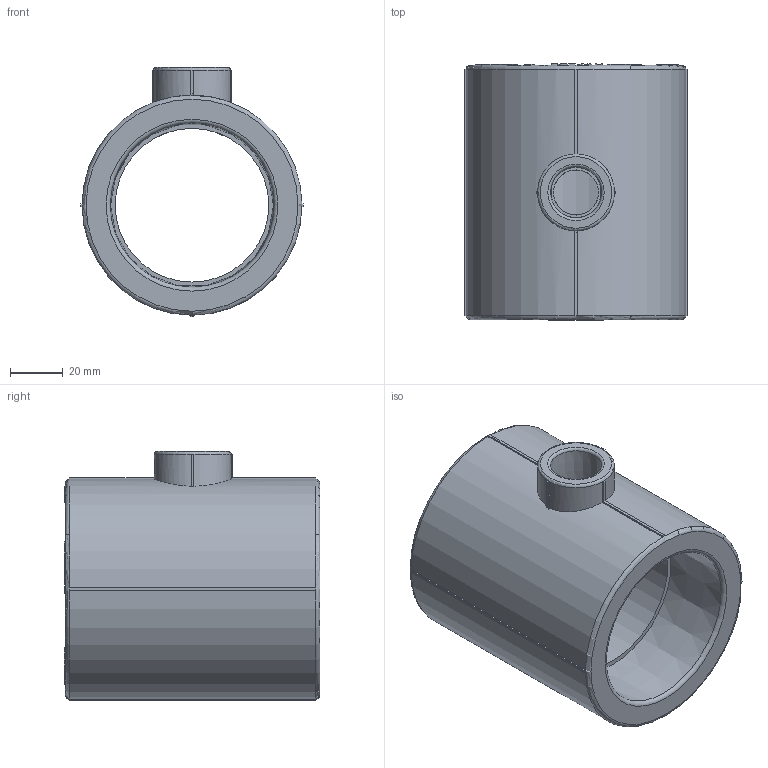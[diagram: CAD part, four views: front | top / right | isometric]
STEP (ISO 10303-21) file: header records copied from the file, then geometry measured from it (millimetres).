
FILE_DESCRIPTION(('STEP AP203'), '1');
FILE_NAME('ÂÐ.752241.067 - VTp.735.0.063020063', '', ('UNSPECIFIED'), ('UNSPECIFIED'), 'C3D Converter', 'C3D Toolkit', '');
FILE_SCHEMA(('CONFIG_CONTROL_DESIGN'));
Length unit declared in the file: millimetre
Products named in the file (1): ВР.752241.067
Bounding box: 84 x 96.5 x 94 mm (x, y, z)
Volume: 247496.2 mm3; surface area: 50539.6 mm2
Topology: 1 solids, 1 shells, 1131 faces, 3176 edges, 2109 vertices
Faces by surface type: extrusion 669, plane 418, cylinder 35, torus 6, cone 3
Full cylindrical faces by diameter (mm): 6 x1, 17 x1, 58 x1
Entity records: 41642 total; most frequent: CARTESIAN_POINT 15946, ORIENTED_EDGE 6328, DIRECTION 3169, EDGE_CURVE 3164, VECTOR 2153, VERTEX_POINT 2109, B_SPLINE_CURVE_WITH_KNOTS 2012, LINE 1484
